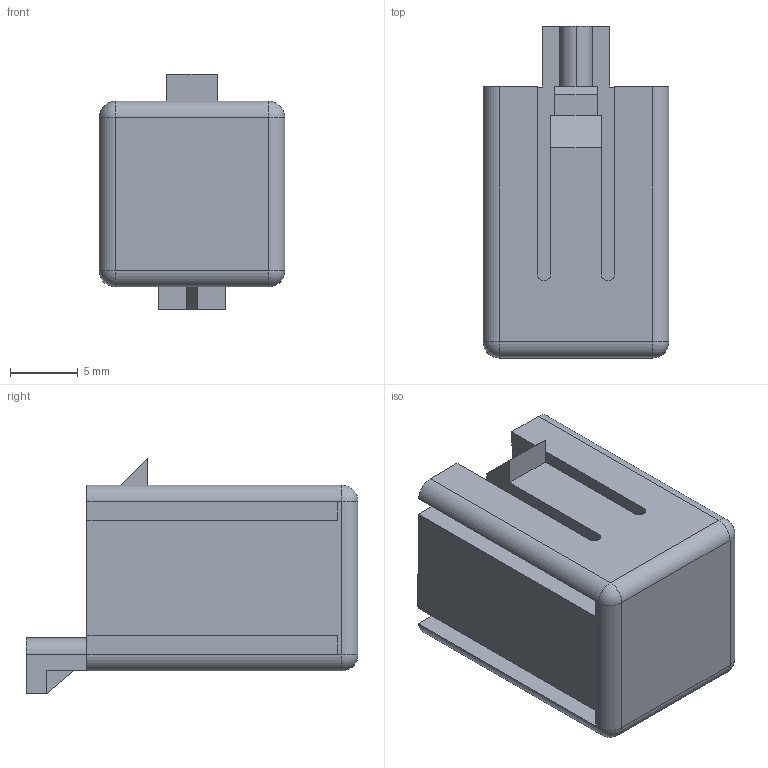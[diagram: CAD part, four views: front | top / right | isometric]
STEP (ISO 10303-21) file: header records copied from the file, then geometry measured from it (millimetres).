
FILE_DESCRIPTION (( 'STEP AP214' ), '1' );
FILE_NAME ('Tc,TE,TB,TG.STEP', '2018-02-23T13:21:13', ( '' ), ( '' ), 'SwSTEP 2.0', 'SolidWorks 2015', '' );
FILE_SCHEMA (( 'AUTOMOTIVE_DESIGN' ));
Length unit declared in the file: millimetre
Products named in the file (1): Tc,TE,TB,TG
Bounding box: 13.7 x 24.5 x 17.4 mm (x, y, z)
Volume: 1749.1 mm3; surface area: 2792.8 mm2
Topology: 1 solids, 1 shells, 82 faces, 226 edges, 142 vertices
Faces by surface type: plane 58, cylinder 20, sphere 4
Entity records: 2576 total; most frequent: CARTESIAN_POINT 447, ORIENTED_EDGE 444, DIRECTION 428, EDGE_CURVE 222, LINE 182, VECTOR 182, VERTEX_POINT 142, AXIS2_PLACEMENT_3D 123
